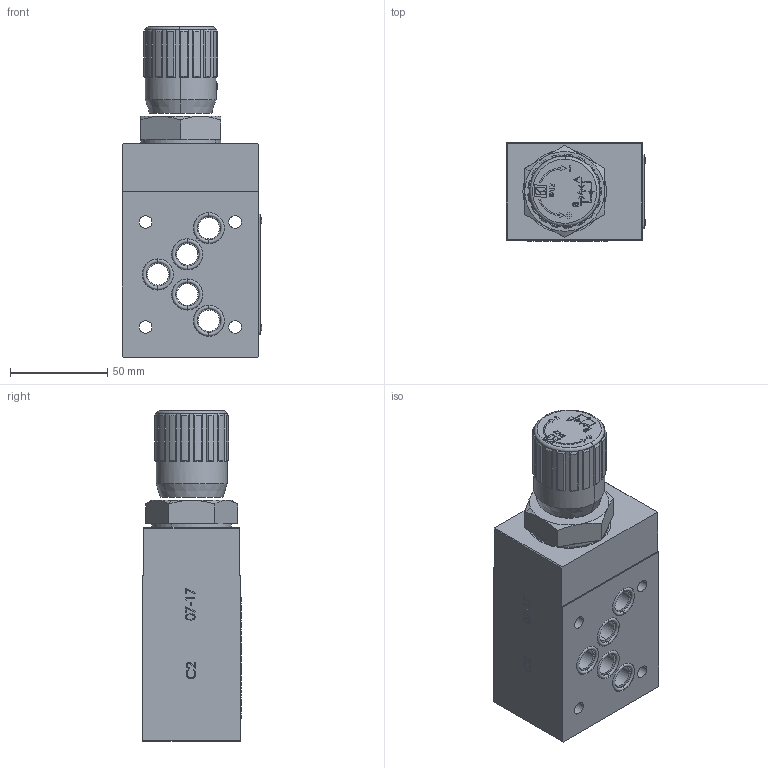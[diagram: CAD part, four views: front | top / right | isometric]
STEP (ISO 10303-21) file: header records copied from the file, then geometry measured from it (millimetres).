
FILE_DESCRIPTION (( 'STEP AP214' ), '1' );
FILE_NAME ('357-5-A-05.STEP', '2019-12-04T07:47:48', ( '' ), ( '' ), 'SwSTEP 2.0', 'SolidWorks 2018', '' );
FILE_SCHEMA (( 'AUTOMOTIVE_DESIGN' ));
Length unit declared in the file: millimetre
Products named in the file (1): 357-5-A-05
Bounding box: 71.66 x 50.58 x 169.8 mm (x, y, z)
Surface area: 57567.6 mm2 (no closed solid volume)
Topology: 0 solids, 63 shells, 738 faces, 3758 edges, 3005 vertices
Faces by surface type: plane 445, cylinder 125, bspline 82, cone 56, torus 22, sphere 8
Entity records: 58483 total; most frequent: CARTESIAN_POINT 22941, ORIENTED_EDGE 5133, DIRECTION 4716, EDGE_CURVE 3758, VERTEX_POINT 3005, LINE 2484, VECTOR 2484, AXIS2_PLACEMENT_3D 1116
